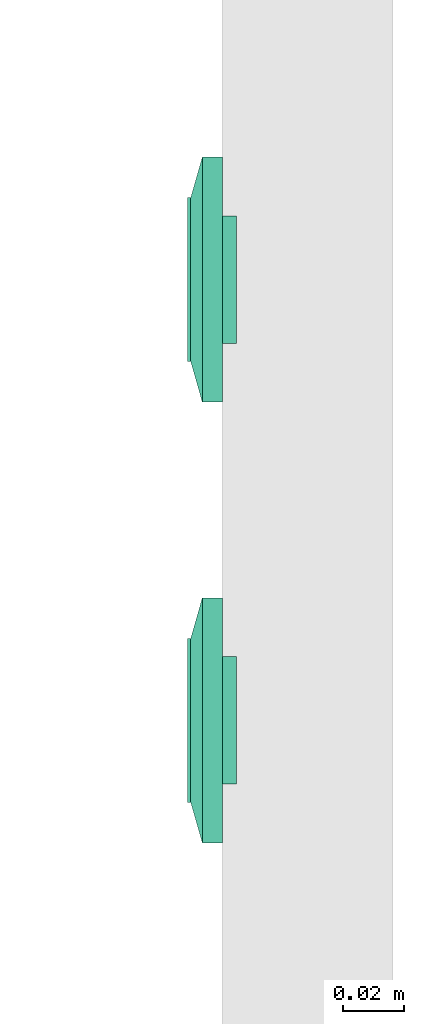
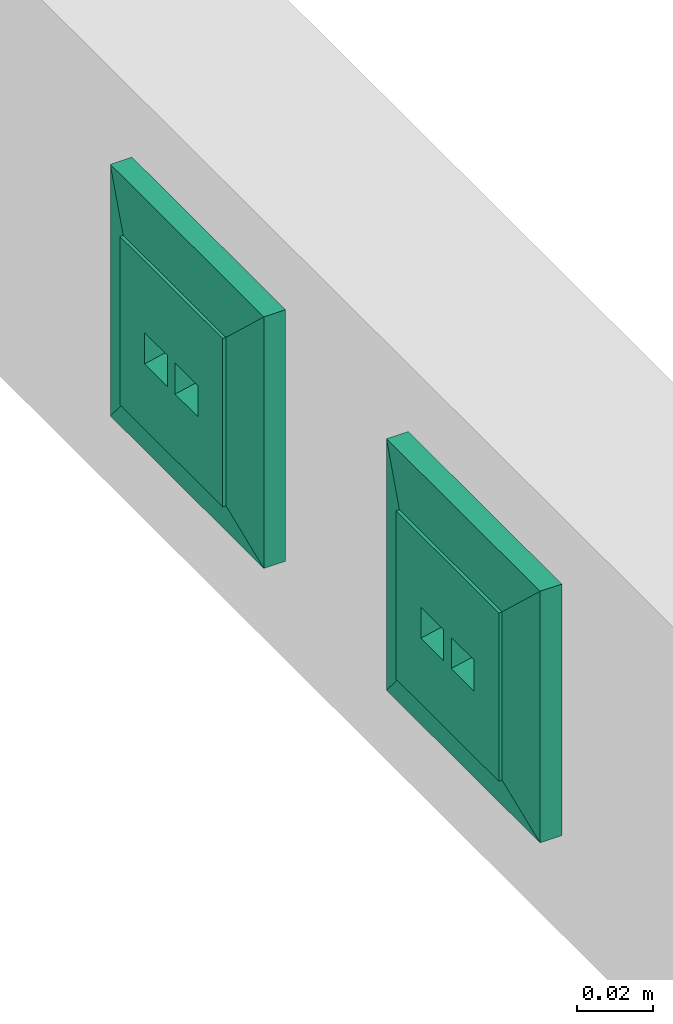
# One storey, part 41 of 166: 2 flow terminals.
"""IFC2X3 building model written with IfcOpenShell, lengths in metres."""

import ifcopenshell
import ifcopenshell.guid

model = None  # the IFC model being written
_history = None  # IfcOwnerHistory: only IFC2X3 demands one
_inside = {}  # id of a spatial element -> (the spatial element, [elements in it])
_under = {}  # id of a project, library or spatial element -> (it, [spatial elements below it])
_declared = {}  # id of a project -> (the project, [libraries it declares])
_typed = {}  # id of a type object -> (the type object, [elements of that type])
_made_of = {}  # id of a material, layer set ... -> (it, [elements and type objects made of it])


def new_model(schema):
    """Start an empty IFC model of exactly this schema.

    Asked for "IFC4X3", IfcOpenShell would pick the latest addendum, in which some entities
    have other attributes; the version numbers below select the first issue.
    IFC2X3 requires an IfcOwnerHistory on every rooted entity: one is made here for all.
    """
    global model, _history
    if schema == "IFC4X3":
        model = ifcopenshell.file(schema_version=(4, 3, 0, 0))
    else:
        model = ifcopenshell.file(schema=schema)
    _inside.clear()
    _under.clear()
    _declared.clear()
    _typed.clear()
    _made_of.clear()
    _history = None
    if model.schema == "IFC2X3":
        org = make("IfcOrganization", Name="unknown")
        user = make(
            "IfcPersonAndOrganization",
            ThePerson=make("IfcPerson", FamilyName="unknown"),
            TheOrganization=org,
        )
        app = make(
            "IfcApplication",
            ApplicationDeveloper=org,
            Version="unknown",
            ApplicationFullName="unknown",
            ApplicationIdentifier="unknown",
        )
        _history = make(
            "IfcOwnerHistory",
            OwningUser=user,
            OwningApplication=app,
            ChangeAction="ADDED",
            CreationDate=0,
        )
    return model


def make(cls, **values):
    """One entity of the class cls with the attributes given. An attribute that is None is left unset."""
    return model.create_entity(
        cls, **{name: value for name, value in values.items() if value is not None}
    )


def entity(cls, *values):
    """Any entity or typed value of the class cls, its attributes in the order of the schema. None: left unset."""
    e = model.create_entity(cls)
    for i, value in enumerate(values):
        if value is not None:
            e[i] = value
    return e


def rooted(cls, **values):
    """An entity with a GlobalId (a new one), such as an element, a storey or a relation."""
    return make(cls, GlobalId=ifcopenshell.guid.new(), OwnerHistory=_history, **values)


def si_unit(unit_type, name, prefix=None):
    """IfcSIUnit, for example si_unit("LENGTHUNIT", "METRE", prefix="MILLI")."""
    return make("IfcSIUnit", UnitType=unit_type, Prefix=prefix, Name=name)


def converted_unit(unit_type, name, factor, base, dimensions=None, offset=None):
    """IfcConversionBasedUnit, such as the inch: factor (a typed value) times the base unit."""
    return make(
        "IfcConversionBasedUnit"
        if offset is None
        else "IfcConversionBasedUnitWithOffset",
        ConversionOffset=offset,
        Dimensions=None
        if dimensions is None
        else entity("IfcDimensionalExponents", *dimensions),
        UnitType=unit_type,
        Name=name,
        ConversionFactor=make(
            "IfcMeasureWithUnit", ValueComponent=factor, UnitComponent=base
        ),
    )


def derived_unit(unit_type, elements):
    """IfcDerivedUnit: a product of units, each with its exponent."""
    return make(
        "IfcDerivedUnit",
        Elements=[
            make("IfcDerivedUnitElement", Unit=unit, Exponent=power)
            for unit, power in elements
        ],
        UnitType=unit_type,
    )


def assignment(units):
    """IfcUnitAssignment: the units of a project."""
    return None if units is None else make("IfcUnitAssignment", Units=units)


def point(xyz):
    """IfcCartesianPoint."""
    return None if xyz is None else make("IfcCartesianPoint", Coordinates=xyz)


def direction(xyz):
    """IfcDirection."""
    return None if xyz is None else make("IfcDirection", DirectionRatios=xyz)


def frame(location, z_axis=None, x_axis=None):
    """IfcAxis2Placement3D, a coordinate frame: its origin and axes. An axis left out is left unset."""
    return make(
        "IfcAxis2Placement3D",
        Location=point(location),
        Axis=direction(z_axis),
        RefDirection=direction(x_axis),
    )


def origin():
    """The frame at (0, 0, 0) with its axes left unset."""
    return frame((0.0, 0.0, 0.0))


def place(relative_to, where):
    """IfcLocalPlacement: puts the frame where relative to a parent placement (None: the world)."""
    return make(
        "IfcLocalPlacement", PlacementRelTo=relative_to, RelativePlacement=where
    )


def context(
    kind, dimensions, precision=None, world=None, true_north=None, identifier=None
):
    """IfcGeometricRepresentationContext, for example the 3D "Model" context."""
    return make(
        "IfcGeometricRepresentationContext",
        ContextIdentifier=identifier,
        ContextType=kind,
        CoordinateSpaceDimension=dimensions,
        Precision=precision,
        WorldCoordinateSystem=world,
        TrueNorth=true_north,
    )


def subcontext(parent, identifier, kind, view, scale=None):
    """IfcGeometricRepresentationSubContext, for example "Body" below "Model"."""
    return make(
        "IfcGeometricRepresentationSubContext",
        ContextIdentifier=identifier,
        ContextType=kind,
        ParentContext=parent,
        TargetScale=scale,
        TargetView=view,
    )


def project(units=None, contexts=None):
    """IfcProject with its units and contexts."""
    return rooted(
        "IfcProject",
        Name="project",
        RepresentationContexts=contexts,
        UnitsInContext=assignment(units),
    )


def spatial(cls, under=None, at=None, **own):
    """A site, building, storey or space (cls), placed at a placement, below another one or the project."""
    s = rooted(cls, ObjectPlacement=at, **own)
    if under is not None:
        _under.setdefault(under.id(), (under, []))[1].append(s)
    return s


def faces_of(points, faces, orient=None, outer=None):
    """IfcFace entities. A face is a list of loops; a loop is a list of indices into points, from 0.

    orient and outer hold one flag for each loop. By default every Orientation is true, the
    first loop of a face is its IfcFaceOuterBound and the others are IfcFaceBound.
    """
    made = []
    for i, loops in enumerate(faces):
        bounds = []
        for j, loop in enumerate(loops):
            is_outer = j == 0 if outer is None else outer[i][j]
            bounds.append(
                make(
                    "IfcFaceOuterBound" if is_outer else "IfcFaceBound",
                    Bound=make("IfcPolyLoop", Polygon=[points[k] for k in loop]),
                    Orientation=True if orient is None else orient[i][j],
                )
            )
        made.append(make("IfcFace", Bounds=bounds))
    return made


def faceted_brep(points, faces, orient=None, outer=None, voids=None):
    """IfcFacetedBrep: a solid bounded by flat faces; with voids (closed shells), ...WithVoids."""
    shared = [point(p) for p in points]
    hull = make("IfcClosedShell", CfsFaces=faces_of(shared, faces, orient, outer))
    if voids is None:
        return make("IfcFacetedBrep", Outer=hull)
    return make(
        "IfcFacetedBrepWithVoids",
        Outer=hull,
        Voids=[
            make(cls, CfsFaces=faces_of(shared, fs, o, b)) for cls, fs, o, b in voids
        ],
    )


def shape(context_of_items, identifier, shape_type, items):
    """IfcShapeRepresentation: the items that make up one representation, for example the "Body"."""
    return make(
        "IfcShapeRepresentation",
        ContextOfItems=context_of_items,
        RepresentationIdentifier=identifier,
        RepresentationType=shape_type,
        Items=items,
    )


def source(mapping_origin, context_of_items, identifier, shape_type, items):
    """IfcRepresentationMap: a shape defined once, which mapped items show again and again."""
    return make(
        "IfcRepresentationMap",
        MappingOrigin=mapping_origin,
        MappedRepresentation=shape(context_of_items, identifier, shape_type, items),
    )


def transform(
    local_origin,
    x_axis=None,
    y_axis=None,
    z_axis=None,
    scale=None,
    scale2=None,
    scale3=None,
    uniform=True,
):
    """IfcCartesianTransformationOperator3D, or its non-uniform kind. x_axis, y_axis, z_axis: its Axis1, 2, 3."""
    if uniform:
        return make(
            "IfcCartesianTransformationOperator3D",
            Axis1=direction(x_axis),
            Axis2=direction(y_axis),
            LocalOrigin=point(local_origin),
            Scale=scale,
            Axis3=direction(z_axis),
        )
    return make(
        "IfcCartesianTransformationOperator3DnonUniform",
        Axis1=direction(x_axis),
        Axis2=direction(y_axis),
        LocalOrigin=point(local_origin),
        Scale=scale,
        Axis3=direction(z_axis),
        Scale2=scale2,
        Scale3=scale3,
    )


def mapped(mapping_source, mapping_target):
    """IfcMappedItem: shows the shape of a source again, moved by a transform."""
    return make(
        "IfcMappedItem", MappingSource=mapping_source, MappingTarget=mapping_target
    )


def made_of(thing, what):
    """Note that an element or type object is made of a material, layer set ...; save() writes the relation."""
    if what is not None:
        _made_of.setdefault(what.id(), (what, []))[1].append(thing)
    return thing


def type_object(cls, material=None, **own):
    """A type object (cls), such as IfcWallType, which elements share."""
    return made_of(rooted(cls, **own), material)


def type_shapes(of_type, sources):
    """Give a type object the sources (RepresentationMaps) that its elements show as mapped items."""
    of_type.RepresentationMaps = sources


def element(
    cls,
    number,
    at=None,
    inside=None,
    cuts=None,
    type_object=None,
    material=None,
    context=None,
    identifier="Body",
    shape_type=None,
    held_by="IfcProductDefinitionShape",
    body=None,
    shapes=None,
    **own,
):
    """One element of the class cls, such as IfcWall. Its Tag is "e" and its number.

    at: its placement. inside: the storey or other place that contains it. cuts: it is an
    opening in that element (IfcRelVoidsElement). A single representation is given by context,
    identifier, shape_type and body (its items); several are given by shapes. held_by: the class
    of the entity that holds the representations. save() writes the other relations.
    """
    e = rooted(cls, Tag="e%d" % number, ObjectPlacement=at, **own)
    if body is not None:
        shapes = [shape(context, identifier, shape_type, body)]
    if shapes is not None:
        e.Representation = make(held_by, Representations=shapes)
    if inside is not None:
        _inside.setdefault(inside.id(), (inside, []))[1].append(e)
    if cuts is not None:
        rooted(
            "IfcRelVoidsElement", RelatingBuildingElement=cuts, RelatedOpeningElement=e
        )
    if type_object is not None:
        _typed.setdefault(type_object.id(), (type_object, []))[1].append(e)
    return made_of(e, material)


def aggregate(whole, parts):
    """IfcRelAggregates: a whole, such as a stair, and the parts it consists of."""
    return rooted("IfcRelAggregates", RelatingObject=whole, RelatedObjects=parts)


def save(model, path):
    """Write the relations noted so far, then the file.

    IfcRelAggregates (storeys below a building ...), IfcRelContainedInSpatialStructure (elements
    in a storey), IfcRelDefinesByType, IfcRelAssociatesMaterial and IfcRelDeclares: one each for
    every whole, place, type object, material and project.
    """
    for whole, parts in _under.values():
        aggregate(whole, parts)
    for where, things in _inside.values():
        rooted(
            "IfcRelContainedInSpatialStructure",
            RelatedElements=things,
            RelatingStructure=where,
        )
    for kind, things in _typed.values():
        rooted("IfcRelDefinesByType", RelatedObjects=things, RelatingType=kind)
    for what, things in _made_of.values():
        rooted("IfcRelAssociatesMaterial", RelatedObjects=things, RelatingMaterial=what)
    for by, libraries in _declared.values():
        rooted("IfcRelDeclares", RelatingContext=by, RelatedDefinitions=libraries)
    model.write(path)


model = new_model("IFC2X3")

# Units and contexts
model_context = context("Model", 3, precision=1e-05, world=origin(), true_north=direction((6.12303176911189e-17, 1.0)))
body_context = subcontext(model_context, "Body", "Model", "MODEL_VIEW")
ifc_project = project(units=[si_unit("LENGTHUNIT", "METRE"), si_unit("AREAUNIT", "SQUARE_METRE"), si_unit("VOLUMEUNIT", "CUBIC_METRE"), converted_unit("PLANEANGLEUNIT", "DEGREE", entity("IfcRatioMeasure", 0.0174532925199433), si_unit("PLANEANGLEUNIT", "RADIAN"), dimensions=[0, 0, 0, 0, 0, 0, 0]), si_unit("MASSUNIT", "GRAM", prefix="KILO"), derived_unit("MASSDENSITYUNIT", [(si_unit("MASSUNIT", "GRAM", prefix="KILO"), 1), (si_unit("LENGTHUNIT", "METRE"), -3)]), si_unit("TIMEUNIT", "SECOND"), si_unit("FREQUENCYUNIT", "HERTZ"), si_unit("THERMODYNAMICTEMPERATUREUNIT", "DEGREE_CELSIUS"), derived_unit("THERMALTRANSMITTANCEUNIT", [(si_unit("MASSUNIT", "GRAM", prefix="KILO"), 1), (si_unit("THERMODYNAMICTEMPERATUREUNIT", "KELVIN"), -1), (si_unit("TIMEUNIT", "SECOND"), -3)]), derived_unit("VOLUMETRICFLOWRATEUNIT", [(si_unit("LENGTHUNIT", "METRE"), 3), (si_unit("TIMEUNIT", "SECOND"), -1)]), si_unit("ELECTRICCURRENTUNIT", "AMPERE"), si_unit("ELECTRICVOLTAGEUNIT", "VOLT"), si_unit("POWERUNIT", "WATT"), si_unit("FORCEUNIT", "NEWTON"), si_unit("ILLUMINANCEUNIT", "LUX"), si_unit("LUMINOUSFLUXUNIT", "LUMEN"), si_unit("LUMINOUSINTENSITYUNIT", "CANDELA"), derived_unit("USERDEFINED", [(si_unit("MASSUNIT", "GRAM", prefix="KILO"), -1), (si_unit("LENGTHUNIT", "METRE"), -2), (si_unit("TIMEUNIT", "SECOND"), 3), (si_unit("LUMINOUSFLUXUNIT", "LUMEN"), 1)]), derived_unit("LINEARVELOCITYUNIT", [(si_unit("LENGTHUNIT", "METRE"), 1), (si_unit("TIMEUNIT", "SECOND"), -1)]), si_unit("PRESSUREUNIT", "PASCAL"), derived_unit("USERDEFINED", [(si_unit("LENGTHUNIT", "METRE"), -2), (si_unit("MASSUNIT", "GRAM", prefix="KILO"), 1), (si_unit("TIMEUNIT", "SECOND"), -2)])], contexts=[model_context])

# Site, building, storey
site_placement = place(None, origin())
site = spatial("IfcSite", under=ifc_project, at=site_placement, Name="Default", CompositionType="ELEMENT")
building_placement = place(site_placement, origin())
building = spatial("IfcBuilding", under=site, at=building_placement, CompositionType="ELEMENT")
storey_placement = place(building_placement, frame((0.0, 0.0, 4.27)))
storey = spatial("IfcBuildingStorey", under=building, at=storey_placement, Name="01", CompositionType="ELEMENT", Elevation=4.27)

# Flow terminals
electric_appliance_type = type_object("IfcElectricApplianceType", Name="RJ45 IP20", PredefinedType="NOTDEFINED")
shared_shape = source(origin(), body_context, "Body", "Brep", [
    faceted_brep([(0.00200000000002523, 0.0, 0.00799999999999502), (0.00400000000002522, 0.0, 0.00799999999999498), (0.00500000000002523, 0.00199999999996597, 0.00799999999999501), (0.0110000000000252, 0.00199999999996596, 0.00799999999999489), (0.0120000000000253, 0.0, 0.00799999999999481), (0.0140000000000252, 0.0, 0.00799999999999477), (0.0140000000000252, 0.00399999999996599, 0.00799999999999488), (0.00200000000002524, 0.00399999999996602, 0.00799999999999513), (0.00200000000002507, 0.0, 0.0), (0.00200000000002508, 0.00399999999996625, 0.0), (0.0140000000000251, 0.00399999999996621, 0.0), (0.0140000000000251, 0.0, 0.0), (0.0120000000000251, 0.0, 0.0), (0.0110000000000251, 0.00199999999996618, 0.0), (0.00500000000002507, 0.0019999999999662, 0.0), (0.00400000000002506, 0.0, 0.0)], [[[0, 1, 2, 3, 4, 5, 6, 7]], [[8, 9, 10, 11, 12, 13, 14, 15]], [[1, 0, 8, 15]], [[2, 1, 15, 14]], [[3, 2, 14, 13]], [[4, 3, 13, 12]], [[5, 4, 12, 11]], [[6, 5, 11, 10]], [[7, 6, 10, 9]], [[0, 7, 9, 8]]]),
    faceted_brep([(-0.0139999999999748, 0.0, 0.00799999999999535), (-0.0119999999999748, 0.0, 0.00799999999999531), (-0.0109999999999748, 0.00199999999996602, 0.00799999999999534), (-0.00499999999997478, 0.00199999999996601, 0.00799999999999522), (-0.0039999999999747, 0.0, 0.00799999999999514), (-0.00199999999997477, 0.0, 0.0079999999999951), (-0.00199999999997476, 0.00399999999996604, 0.00799999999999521), (-0.0139999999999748, 0.00399999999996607, 0.00799999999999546), (-0.0139999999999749, 0.0, 0.0), (-0.0139999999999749, 0.00399999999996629, 0.0), (-0.00199999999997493, 0.00399999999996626, 0.0), (-0.00199999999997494, 0.0, 0.0), (-0.00399999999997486, 0.0, 0.0), (-0.00499999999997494, 0.00199999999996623, 0.0), (-0.0109999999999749, 0.00199999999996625, 0.0), (-0.0119999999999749, 0.0, 0.0)], [[[0, 1, 2, 3, 4, 5, 6, 7]], [[8, 9, 10, 11, 12, 13, 14, 15]], [[1, 0, 8, 15]], [[2, 1, 15, 14]], [[3, 2, 14, 13]], [[4, 3, 13, 12]], [[5, 4, 12, 11]], [[6, 5, 11, 10]], [[7, 6, 10, 9]], [[0, 7, 9, 8]]]),
    faceted_brep([(0.0140000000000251, 0.00399999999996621, 0.0), (0.00200000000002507, 0.00399999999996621, 0.0), (0.00200000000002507, -0.00350000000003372, 0.0), (0.0140000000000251, -0.00350000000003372, 0.0), (0.0140000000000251, 0.00399999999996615, 0.00199999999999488), (0.00200000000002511, 0.00399999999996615, 0.00199999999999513), (0.00200000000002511, -0.00393859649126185, 0.00199999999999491), (0.0140000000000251, -0.00393859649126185, 0.00199999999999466), (0.0210000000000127, 0.0209999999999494, 0.00199999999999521), (-0.0209999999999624, 0.0209999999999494, 0.00199999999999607), (-0.0209999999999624, -0.0210000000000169, 0.00199999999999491), (0.0210000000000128, -0.0210000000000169, 0.00199999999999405), (-0.0139999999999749, 0.0039999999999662, 0.00199999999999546), (-0.0019999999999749, 0.0039999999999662, 0.00199999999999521), (-0.00199999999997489, -0.0039385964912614, 0.00199999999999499), (-0.0139999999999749, -0.00393859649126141, 0.00199999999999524), (0.0210000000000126, 0.0209999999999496, -0.00460000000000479), (0.0210000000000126, -0.0210000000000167, -0.00460000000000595), (-0.0209999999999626, -0.0210000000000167, -0.00460000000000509), (-0.0209999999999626, 0.0209999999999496, -0.00460000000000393), (-0.00199999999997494, 0.00399999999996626, 0.0), (-0.0139999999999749, 0.00399999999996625, 0.0), (-0.0139999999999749, -0.00350000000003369, 0.0), (-0.00199999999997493, -0.00350000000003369, 0.0)], [[[0, 1, 2, 3]], [[1, 0, 4, 5]], [[2, 1, 5, 6]], [[3, 2, 6, 7]], [[0, 3, 7, 4]], [[5, 4, 7, 6], [8, 9, 10, 11], [12, 13, 14, 15]], [[16, 17, 18, 19]], [[9, 8, 16, 19]], [[10, 9, 19, 18]], [[11, 10, 18, 17]], [[8, 11, 17, 16]], [[20, 21, 22, 23]], [[21, 20, 13, 12]], [[22, 21, 12, 15]], [[23, 22, 15, 14]], [[20, 23, 14, 13]]], outer=[[True], [True], [True], [True], [True], [False, True, False], [True], [True], [True], [True], [True], [True], [True], [True], [True], [True]]),
    faceted_brep([(0.0270000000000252, 0.026999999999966, 0.0113999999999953), (-0.0269999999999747, 0.026999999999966, 0.0113999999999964), (-0.0269999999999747, -0.0270000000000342, 0.0113999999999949), (0.0270000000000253, -0.0270000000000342, 0.0113999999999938), (0.0020000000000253, 0.00399999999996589, 0.0113999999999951), (0.0140000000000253, 0.00399999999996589, 0.0113999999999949), (0.0140000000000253, -0.00600000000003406, 0.0113999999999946), (0.0020000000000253, -0.00600000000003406, 0.0113999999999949), (-0.0139999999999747, 0.00399999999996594, 0.0113999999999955), (-0.00199999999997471, 0.00399999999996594, 0.0113999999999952), (-0.00199999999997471, -0.0060000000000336, 0.0113999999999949), (-0.0139999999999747, -0.00600000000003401, 0.0113999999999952), (0.0270000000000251, 0.0269999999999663, 0.00199999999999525), (0.0270000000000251, -0.0270000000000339, 0.00199999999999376), (-0.0269999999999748, -0.0270000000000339, 0.00199999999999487), (-0.0269999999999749, 0.0269999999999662, 0.00199999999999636), (0.0140000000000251, 0.00399999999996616, 0.00199999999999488), (0.00200000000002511, 0.00399999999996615, 0.00199999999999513), (0.00200000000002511, -0.00393859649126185, 0.00199999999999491), (0.0140000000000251, -0.00393859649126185, 0.00199999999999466), (-0.00199999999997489, 0.0039999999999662, 0.00199999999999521), (-0.0139999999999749, 0.0039999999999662, 0.00199999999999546), (-0.0139999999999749, -0.0039385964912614, 0.00199999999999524), (-0.00199999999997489, -0.0039385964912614, 0.00199999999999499)], [[[0, 1, 2, 3], [4, 5, 6, 7], [8, 9, 10, 11]], [[12, 13, 14, 15], [16, 17, 18, 19], [20, 21, 22, 23]], [[1, 0, 12, 15]], [[2, 1, 15, 14]], [[3, 2, 14, 13]], [[0, 3, 13, 12]], [[4, 17, 16, 5]], [[17, 4, 7, 18]], [[18, 7, 6, 19]], [[5, 16, 19, 6]], [[8, 21, 20, 9]], [[21, 8, 11, 22]], [[22, 11, 10, 23]], [[9, 20, 23, 10]]]),
    faceted_brep([(0.027000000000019, 0.0269999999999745, 0.00659999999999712), (-0.0269999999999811, 0.0269999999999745, 0.00659999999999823), (-0.026999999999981, -0.0270000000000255, 0.00659999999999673), (0.027000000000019, -0.0270000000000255, 0.00659999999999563), (0.040350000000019, 0.0403499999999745, 0.00659999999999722), (0.040350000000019, -0.0403500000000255, 0.00659999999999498), (-0.0403499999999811, -0.0403500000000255, 0.00659999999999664), (-0.0403499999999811, 0.0403499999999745, 0.00659999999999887), (-0.026999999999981, 0.0269999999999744, 0.0103999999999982), (0.027000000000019, 0.0269999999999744, 0.0103999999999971), (-0.026999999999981, -0.0270000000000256, 0.0103999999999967), (0.027000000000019, -0.0270000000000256, 0.0103999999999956)], [[[0, 1, 2, 3], [4, 5, 6, 7]], [[4, 7, 8, 9]], [[7, 6, 10, 8]], [[6, 5, 11, 10]], [[5, 4, 9, 11]], [[0, 9, 8, 1]], [[1, 8, 10, 2]], [[2, 10, 11, 3]], [[9, 0, 3, 11]]], outer=[[False, True], [True], [True], [True], [True], [True], [True], [True], [True]]),
    faceted_brep([(0.040350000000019, 0.0403499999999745, 0.00659999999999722), (-0.0403499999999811, 0.0403499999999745, 0.00659999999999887), (-0.0403499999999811, -0.0403500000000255, 0.00659999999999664), (0.040350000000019, -0.0403500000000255, 0.00659999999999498), (-0.0269999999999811, 0.0269999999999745, 0.00659999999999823), (0.0270000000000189, 0.0269999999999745, 0.00659999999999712), (0.0270000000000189, -0.0270000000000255, 0.00659999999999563), (-0.0269999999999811, -0.0270000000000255, 0.00659999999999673), (0.0403500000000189, 0.0403499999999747, 0.0), (0.0403500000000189, -0.0403500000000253, 0.0), (-0.0403499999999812, -0.0403500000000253, 0.0), (-0.0403499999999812, 0.0403499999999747, 0.0), (0.0270000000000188, 0.0269999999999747, 0.0), (-0.0269999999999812, 0.0269999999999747, 0.0), (-0.0269999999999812, -0.0270000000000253, 0.0), (0.0270000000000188, -0.0270000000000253, 0.0)], [[[0, 1, 2, 3], [4, 5, 6, 7]], [[8, 9, 10, 11], [12, 13, 14, 15]], [[1, 0, 8, 11]], [[2, 1, 11, 10]], [[3, 2, 10, 9]], [[0, 3, 9, 8]], [[12, 5, 4, 13]], [[13, 4, 7, 14]], [[14, 7, 6, 15]], [[5, 12, 15, 6]]]),
])
type_shapes(electric_appliance_type, [shared_shape])
for number, where, z_axis, x_axis in (
    (1, (37.3667436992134, -192.373423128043, 4.70800000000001), (-1.0, 0.0, 0.0), (0.0, -1.0, 0.0)),
    (2, (37.3667436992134, -192.228264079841, 4.70800000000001), (-1.0, 0.0, 0.0), (0.0, -1.0, 0.0)),
):
    element("IfcFlowTerminal", number, at=place(building_placement, frame(where, z_axis=z_axis, x_axis=x_axis)), inside=storey, type_object=electric_appliance_type, Name="INT_Prise RJ45:RJ45 IP20", ObjectType="INT_Prise RJ45:RJ45 IP20", context=body_context, shape_type="MappedRepresentation", body=[
        mapped(shared_shape, transform((0.0, 0.0, 0.0), scale=1.0)),
    ])

save(model, "model.ifc")
